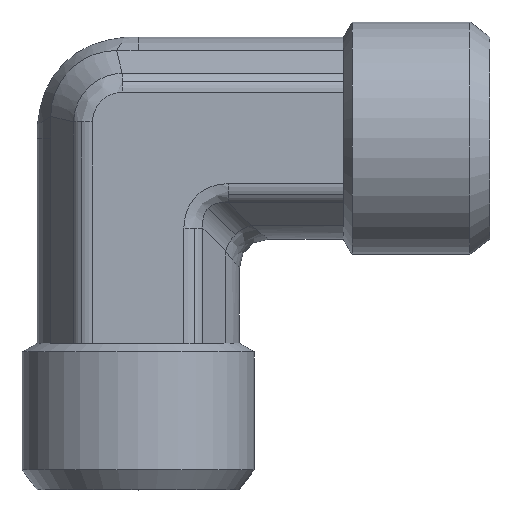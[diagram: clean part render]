
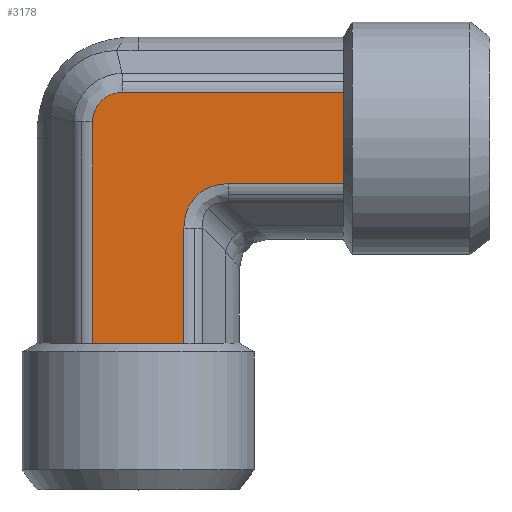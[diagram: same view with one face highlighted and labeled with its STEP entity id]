
A CAD part, top view. The second image highlights one B-rep face of the part: STEP entity #3178.
In plain terms, the highlighted planar face has unit normal (0, 0, 1) as drawn and (0, -1, 0) by its records, which use the part's own axes.
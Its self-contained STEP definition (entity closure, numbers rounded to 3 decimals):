
#361=CARTESIAN_POINT('',(1.649,-6.9,3.118));
#362=VERTEX_POINT('',#361);
#370=CARTESIAN_POINT('',(9.5,-6.9,3.118));
#371=VERTEX_POINT('',#370);
#372=CARTESIAN_POINT('',(1.649,-6.9,3.118));
#373=DIRECTION('',(1.0,0.0,0.0));
#374=VECTOR('',#373,7.851);
#375=LINE('',#372,#374);
#376=EDGE_CURVE('',#362,#371,#375,.T.);
#485=CARTESIAN_POINT('',(-7.618,-6.9,-1.091));
#486=VERTEX_POINT('',#485);
#494=CARTESIAN_POINT('',(-7.618,-6.9,14.0));
#495=VERTEX_POINT('',#494);
#496=CARTESIAN_POINT('',(-7.618,-6.9,-1.091));
#497=DIRECTION('',(0.0,0.0,1.0));
#498=VECTOR('',#497,15.091);
#499=LINE('',#496,#498);
#500=EDGE_CURVE('',#486,#495,#499,.T.);
#776=CARTESIAN_POINT('',(9.5,-6.9,0.));
#777=VERTEX_POINT('',#776);
#1928=CARTESIAN_POINT('',(-4.5,-6.9,14.0));
#1929=VERTEX_POINT('',#1928);
#2162=CARTESIAN_POINT('',(-4.5,-6.9,14.0));
#2163=DIRECTION('',(-1.0,0.0,0.0));
#2164=VECTOR('',#2163,3.118);
#2165=LINE('',#2162,#2164);
#2166=EDGE_CURVE('',#1929,#495,#2165,.T.);
#2239=CARTESIAN_POINT('',(-1.382,-6.9,14.0));
#2240=VERTEX_POINT('',#2239);
#2241=CARTESIAN_POINT('',(-1.382,-6.9,14.0));
#2242=DIRECTION('',(-1.0,0.0,0.0));
#2243=VECTOR('',#2242,3.118);
#2244=LINE('',#2241,#2243);
#2245=EDGE_CURVE('',#2240,#1929,#2244,.T.);
#2371=CARTESIAN_POINT('',(9.5,-6.9,-3.118));
#2372=VERTEX_POINT('',#2371);
#2373=CARTESIAN_POINT('',(9.5,-6.9,-3.118));
#2374=DIRECTION('',(0.0,0.0,1.0));
#2375=VECTOR('',#2374,3.118);
#2376=LINE('',#2373,#2375);
#2377=EDGE_CURVE('',#2372,#777,#2376,.T.);
#2418=CARTESIAN_POINT('',(9.5,-6.9,0.));
#2419=DIRECTION('',(0.0,0.0,1.0));
#2420=VECTOR('',#2419,3.118);
#2421=LINE('',#2418,#2420);
#2422=EDGE_CURVE('',#777,#371,#2421,.T.);
#2862=CARTESIAN_POINT('',(-5.591,-6.9,-3.118));
#2863=VERTEX_POINT('',#2862);
#2871=CARTESIAN_POINT('',(-7.618,-6.9,-1.091));
#2872=CARTESIAN_POINT('',(-7.618,-6.9,-1.223));
#2873=CARTESIAN_POINT('',(-7.605,-6.9,-1.356));
#2874=CARTESIAN_POINT('',(-7.536,-6.9,-1.695));
#2875=CARTESIAN_POINT('',(-7.462,-6.9,-1.896));
#2876=CARTESIAN_POINT('',(-7.191,-6.9,-2.378));
#2877=CARTESIAN_POINT('',(-6.949,-6.9,-2.631));
#2878=CARTESIAN_POINT('',(-6.339,-6.9,-3.011));
#2879=CARTESIAN_POINT('',(-5.965,-6.9,-3.118));
#2880=CARTESIAN_POINT('',(-5.591,-6.9,-3.118));
#2881=B_SPLINE_CURVE_WITH_KNOTS('',3,(#2871,#2872,#2873,#2874,#2875,#2876,#2877,#2878,#2879,#2880),.UNSPECIFIED.,.F.,.U.,(4,2,2,2,4),(-3.166,-2.771,-2.137,-1.124,0.0),.UNSPECIFIED.);
#2882=EDGE_CURVE('',#2863,#486,#2881,.F.);
#2909=CARTESIAN_POINT('',(9.5,-6.9,-3.118));
#2910=DIRECTION('',(-1.0,0.0,0.0));
#2911=VECTOR('',#2910,15.091);
#2912=LINE('',#2909,#2911);
#2913=EDGE_CURVE('',#2372,#2863,#2912,.T.);
#3045=CARTESIAN_POINT('',(-1.382,-6.9,6.149));
#3046=VERTEX_POINT('',#3045);
#3047=CARTESIAN_POINT('',(-1.382,-6.9,14.0));
#3048=DIRECTION('',(0.0,0.0,-1.0));
#3049=VECTOR('',#3048,7.851);
#3050=LINE('',#3047,#3049);
#3051=EDGE_CURVE('',#2240,#3046,#3050,.T.);
#3134=CARTESIAN_POINT('',(2.659,-6.9,7.159));
#3135=DIRECTION('',(0.,-1.,0.));
#3136=DIRECTION('',(-0.707,0.,-0.707));
#3137=AXIS2_PLACEMENT_3D('',#3134,#3135,#3136);
#3138=ELLIPSE('',#3137,4.518,3.5);
#3139=EDGE_CURVE('',#3046,#362,#3138,.T.);
#3161=CARTESIAN_POINT('',(-4.5,-6.9,-3.175));
#3162=DIRECTION('',(0.0,-1.0,0.0));
#3163=DIRECTION('',(0.0,0.0,-1.0));
#3164=AXIS2_PLACEMENT_3D('',#3161,#3162,#3163);
#3165=PLANE('',#3164);
#3166=ORIENTED_EDGE('',*,*,#2913,.F.);
#3167=ORIENTED_EDGE('',*,*,#2377,.T.);
#3168=ORIENTED_EDGE('',*,*,#2422,.T.);
#3169=ORIENTED_EDGE('',*,*,#376,.F.);
#3170=ORIENTED_EDGE('',*,*,#3139,.F.);
#3171=ORIENTED_EDGE('',*,*,#3051,.F.);
#3172=ORIENTED_EDGE('',*,*,#2245,.T.);
#3173=ORIENTED_EDGE('',*,*,#2166,.T.);
#3174=ORIENTED_EDGE('',*,*,#500,.F.);
#3175=ORIENTED_EDGE('',*,*,#2882,.F.);
#3176=EDGE_LOOP('',(#3166,#3167,#3168,#3169,#3170,#3171,#3172,#3173,#3174,#3175));
#3177=FACE_OUTER_BOUND('',#3176,.T.);
#3178=ADVANCED_FACE('',(#3177),#3165,.T.);
